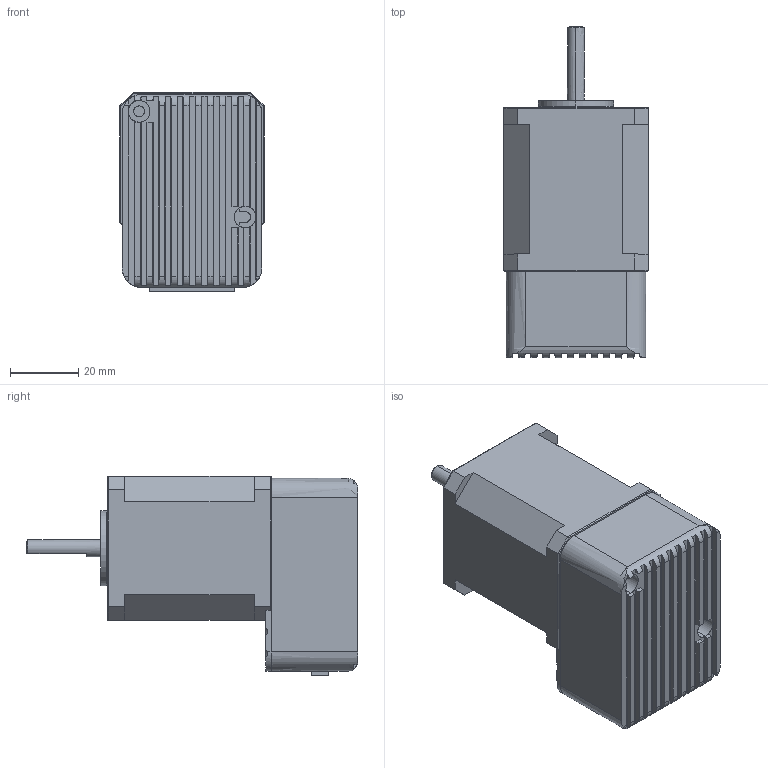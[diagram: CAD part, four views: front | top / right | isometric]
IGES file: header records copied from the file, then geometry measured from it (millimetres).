
Start section: SolidWorks IGES file using analytic representation for surfaces
Global section: file name: C:\Users\IEUser\Dropbox\Arcus\Project #23 DMX Drawings\DMX-K-SA-17\CSu files\DMX-K-SA-17-3.IGS; native system: SolidWorks 2008; preprocessor: SolidWorks 2008; author: IEUser; date: 140122.193056; units: millimetre
Bounding box: 42.3 x 97.28 x 58.58 mm (x, y, z)
Surface area: 29873.1 mm2 (no closed solid volume)
Topology: 0 solids, 0 shells, 272 faces, 3213 edges, 3197 vertices
Faces by surface type: bspline 147, revolution 125
